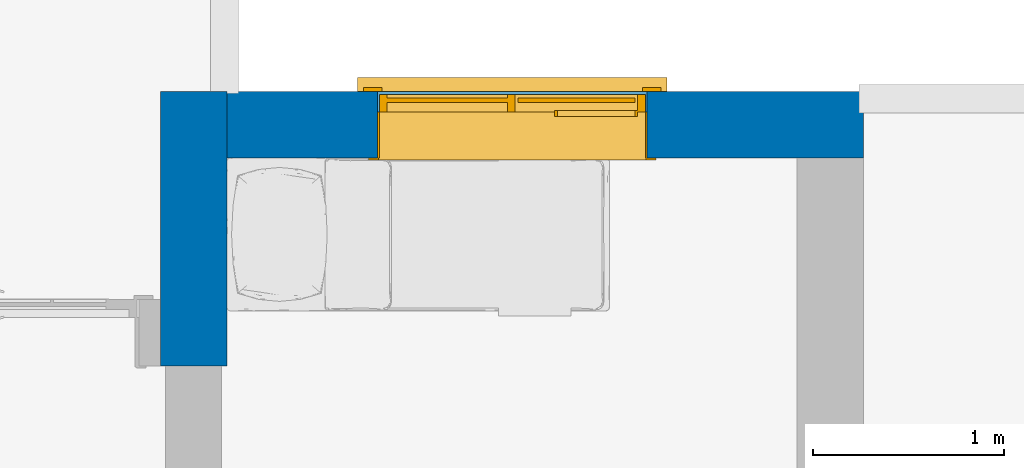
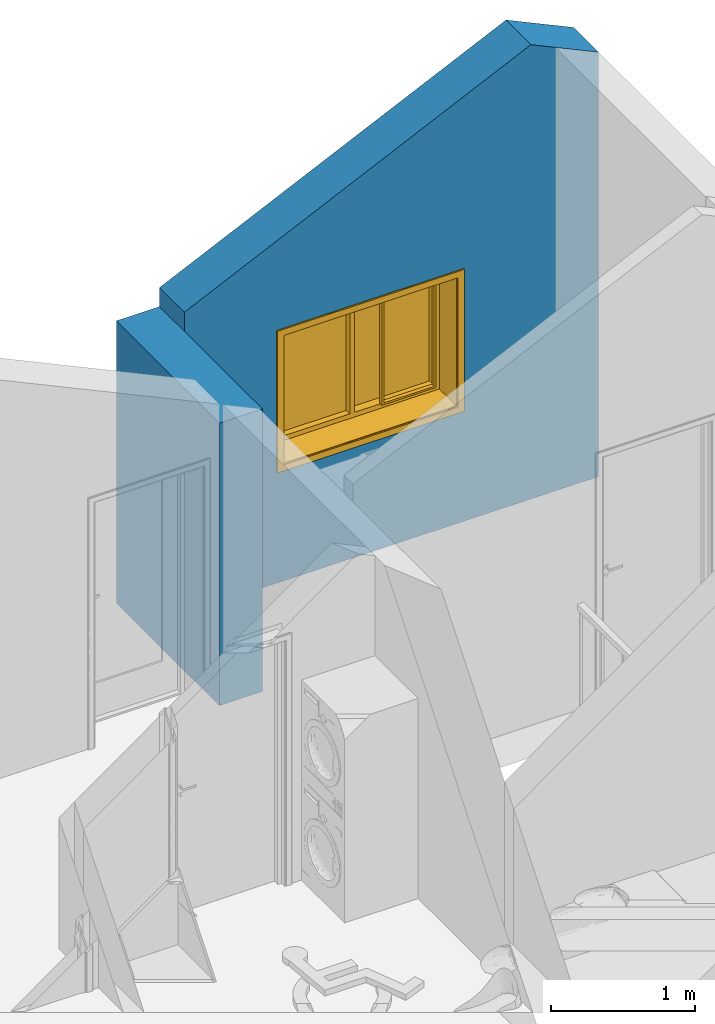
# One storey, part 30 of 44: 2 walls, 1 window, 1 opening.
"""IFC2X3 building model written with IfcOpenShell, lengths in millimetres."""

from ifc_helpers import new_model, entity, si_unit, converted_unit, direction, frame, frame_2d, origin, place, context, subcontext, project, spatial, polyline, rectangle, extrude, clip, bounded_halfspace, faceted_brep, source, transform, mapped, material, material_list, layer, layer_set, layer_usage, type_object, type_shapes, element, fill, save


model = new_model("IFC2X3")

# Units and contexts
model_context = context("Model", 3, precision=0.01, world=origin(), true_north=direction((0.0, 1.0)))
body_context = subcontext(model_context, "Body", "Model", "MODEL_VIEW")
ifc_project = project(units=[si_unit("LENGTHUNIT", "METRE", prefix="MILLI"), si_unit("AREAUNIT", "SQUARE_METRE"), si_unit("VOLUMEUNIT", "CUBIC_METRE"), converted_unit("PLANEANGLEUNIT", "DEGREE", entity("IfcPlaneAngleMeasure", 0.017453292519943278), si_unit("PLANEANGLEUNIT", "RADIAN"), dimensions=[0, 0, 0, 0, 0, 0, 0])], contexts=[model_context])

# Site, building, storey
site_placement = place(None, origin())
site = spatial("IfcSite", under=ifc_project, at=site_placement, Name="Default", CompositionType="ELEMENT")
building_placement = place(site_placement, origin())
building = spatial("IfcBuilding", under=site, at=building_placement, CompositionType="ELEMENT")
storey_placement = place(building_placement, frame((0.0, 0.0, 2681.0)))
storey = spatial("IfcBuildingStorey", under=building, at=storey_placement, Name="Et. 2", CompositionType="ELEMENT", Elevation=2681.0)

# Wall
ifc_material_1 = material(Name="Vegg - Stående Kledning_smal - HVIT")
ifc_layer_1 = layer(ifc_material_1, 19.0)
ifc_material_2 = material(Name="Vegg - Utlekting")
ifc_layer_2 = layer(ifc_material_2, 36.0)
ifc_layer_3 = layer(ifc_material_2, 23.0)
ifc_material_3 = material(Name="Vegg - Gips - GU")
ifc_layer_4 = layer(ifc_material_3, 9.0)
ifc_material_4 = material(Name="Vegg - Stender - Isolert")
ifc_layer_5 = layer(ifc_material_4, 198.0)
ifc_material_5 = material(Name="Vegg - Påforing - Isolert")
ifc_layer_6 = layer(ifc_material_5, 48.0)
ifc_material_6 = material(Name="Vegg - Gips - Hvit")
ifc_layer_7 = layer(ifc_material_6, 13.000000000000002)
ifc_layer_set = layer_set([ifc_layer_1, ifc_layer_2, ifc_layer_3, ifc_layer_4, ifc_layer_5, ifc_layer_6, ifc_layer_7], Name="Basic Wall:23-Kv(sm)TIG-19_36_23_9_198_48_13")
ifc_layer_usage_1 = layer_usage(ifc_layer_set, "AXIS2", "NEGATIVE", 173.0)
wall_type = type_object("IfcWallType", Name="Basic Wall:23-Kv(sm)TIG-19_36_23_9_198_48_13", PredefinedType="STANDARD", material=ifc_layer_set)
wall_1_placement = place(storey_placement, frame((28178.00958675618, 14649.180957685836, 0.0), z_axis=(0.0, 0.0, 1.0), x_axis=(0.0, 1.0, 0.0)))
element("IfcWallStandardCase", 1, at=wall_1_placement, inside=storey, type_object=wall_type, material=ifc_layer_usage_1, Name="Basic Wall:23-Kv(sm)TIG-19_36_23_9_198_48_13", context=body_context, shape_type="SweptSolid", body=[
    extrude(rectangle(XDim=1432.999999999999, YDim=345.9999999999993, at=frame_2d((716.4999999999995, 0.0), x_axis=(-1.0, 0.0))), origin(), (0.0, 0.0, 1.0), 2400.0),
])

# Wall, opening, window
ifc_layer_usage_2 = layer_usage(ifc_layer_set, "AXIS2", "NEGATIVE", 173.0)
wall_2_placement = place(storey_placement, frame((28351.00958675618, 15909.180957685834, 0.0)))
wall_2 = element("IfcWallStandardCase", 2, at=wall_2_placement, inside=storey, type_object=wall_type, material=ifc_layer_usage_2, Name="Basic Wall:23-Kv(sm)TIG-19_36_23_9_198_48_13", context=body_context, shape_type="Clipping", body=[
    clip(clip(extrude(rectangle(XDim=3326.9999999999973, YDim=345.9999999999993, at=frame_2d((1663.4999999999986, 7.958078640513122e-13), x_axis=(-1.0, 0.0))), origin(), (0.0, 0.0, 1.0), 3859.5429700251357), bounded_halfspace(frame((2784.0, -173.0, 3859.5429700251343), z_axis=(0.42261826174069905, 0.0, 0.9063077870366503), x_axis=(0.0, 1.0, 0.0)), False, frame((2784.0, -173.0, 3859.5429700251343)), polyline([(0.0, 0.0), (197.0, 0.0), (543.0, 0.0), (543.0, 346.0), (0.0, 346.0), (0.0, 0.0)]))), bounded_halfspace(frame((0.0, 173.0, 2561.342449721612), z_axis=(-0.42261826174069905, 0.0, 0.9063077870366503), x_axis=(0.0, -1.0, 0.0)), False, frame((0.0, 173.0, 2561.342449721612)), polyline([(0.0, 0.0), (0.0, -346.0), (2784.0, -346.0), (2784.0, 0.0), (0.0, 0.0)]))),
])
opening_placement = place(wall_2_placement, frame((787.0, -173.0, 990.0)))
opening = element("IfcOpeningElement", 3, at=opening_placement, cuts=wall_2, Name="2 ruter vert-post åpning-fast m omramming:14x11M:1", ObjectType="Opening", context=body_context, shape_type="SweptSolid", body=[
    extrude(rectangle(XDim=1410.0000000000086, YDim=1109.9999999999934, at=frame_2d((554.9999999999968, 705.0000000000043), x_axis=(0.0, -1.0))), frame((0.0, 0.0, 0.0), z_axis=(0.0, 1.0, 0.0), x_axis=(0.0, 0.0, 1.0)), (0.0, 0.0, 1.0), 346.0),
])
ifc_material_7 = material(Name="Omramming")
ifc_material_8 = material(Name="Glass - Klart")
ifc_material_9 = material(Name="Karm")
ifc_material_list = material_list([ifc_material_7, ifc_material_8, ifc_material_9])
window_style = type_object("IfcWindowStyle", Name="2 ruter vert-post åpning-fast m omramming:14x11M", ConstructionType="NOTDEFINED", OperationType="NOTDEFINED", ParameterTakesPrecedence=False, Sizeable=False, material=ifc_material_list)
shared_shape = source(origin(), body_context, "Body", "Brep", [
    faceted_brep([(-73.0, 368.0, 1199.153701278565), (25.0, 368.0, 1199.153701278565), (25.0, 368.0, 4.105117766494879), (-73.0, 368.0, 4.105117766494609), (1385.0, 346.0, -110.0), (1483.0, 346.0, -110.0), (1483.0, 346.0, -12.776075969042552), (1513.0, 346.0, -12.776075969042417), (1513.0, 346.0, 10.0), (1483.0, 346.0, 10.0), (1483.0, 346.0, 1199.153701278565), (1385.0, 346.0, 1199.153701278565), (1385.0, 346.0, 10.0), (25.0, 346.0, 10.0), (25.0, 346.0, 1199.153701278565), (-73.0, 346.0, 1199.153701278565), (-73.0, 346.0, 10.0), (-103.0, 346.0, 10.0), (-103.0, 346.0, -12.776075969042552), (-73.0, 346.0, -12.776075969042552), (-73.0, 346.0, -110.0), (25.0, 346.0, -110.0), (25.0, 346.0, -12.776075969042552), (1385.0, 346.0, -12.776075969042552), (1483.0, 368.0, 1199.153701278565), (1385.0, 368.0, 1199.153701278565), (1483.0, 368.0, 4.105117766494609), (1385.0, 368.0, -110.0), (1483.0, 368.0, -110.0), (1385.0, 368.0, 4.105117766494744), (-73.0, 368.0, -110.0), (25.0, 368.0, -110.0), (-103.0, 413.6148078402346, -30.89340912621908), (-103.0, 419.3088268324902, -9.643040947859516), (1513.0, 413.6148078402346, -30.89340912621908), (1513.0, 419.3088268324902, -9.643040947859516), (1483.0, 368.0, -18.670958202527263), (1385.0, 368.0, -18.670958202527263), (25.0, 368.0, -18.670958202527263), (-73.0, 368.0, -18.670958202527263)], [[[0, 1, 2, 3]], [[4, 5, 6, 7, 8, 9, 10, 11, 12, 13, 14, 15, 16, 17, 18, 19, 20, 21, 22, 23]], [[24, 25, 11, 10]], [[24, 10, 9, 26]], [[27, 28, 5, 4]], [[11, 25, 29, 12]], [[1, 0, 15, 14]], [[1, 14, 13, 2]], [[30, 31, 21, 20]], [[15, 0, 3, 16]], [[32, 18, 17, 33]], [[34, 35, 8, 7]], [[18, 32, 34, 7, 6, 36, 37, 23, 22, 38, 39, 19]], [[33, 17, 16, 3, 2, 13, 12, 29, 26, 9, 8, 35]], [[32, 33, 35, 34]], [[30, 20, 19, 39]], [[21, 31, 38, 22]], [[27, 4, 23, 37]], [[5, 28, 36, 6]], [[31, 30, 39, 38]], [[25, 24, 26, 29]], [[28, 27, 37, 36]]]),
    faceted_brep([(1513.0, 413.52687511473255, 1180.8011105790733), (1513.0, 418.4444369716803, 1199.153701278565), (1513.0, 346.0, 1218.5651296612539), (1513.0, 346.0, 1198.894882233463), (-103.0, 413.52687511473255, 1180.8011105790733), (-103.0, 346.0, 1198.894882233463), (-103.0, 346.0, 1218.5651296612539), (-103.0, 418.4444369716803, 1199.153701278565)], [[[0, 1, 2, 3]], [[4, 5, 6, 7]], [[1, 0, 4, 7]], [[2, 1, 7, 6]], [[3, 2, 6, 5]], [[0, 3, 5, 4]]]),
    faceted_brep([(25.0, 368.0, 1193.0), (1385.0, 368.0, 1193.0), (1385.0, 368.0, 1095.0), (25.0, 368.0, 1095.0), (25.0, 346.0, 1193.0), (25.0, 346.0, 1095.0), (1385.0, 346.0, 1095.0), (1385.0, 346.0, 1193.0)], [[[0, 1, 2, 3]], [[4, 5, 6, 7]], [[1, 0, 4, 7]], [[2, 1, 7, 6]], [[3, 2, 6, 5]], [[0, 3, 5, 4]]]),
    faceted_brep([(1385.0, 368.0, -20.0), (25.0, 368.0, -20.0), (25.0, 346.0, -20.0), (1385.0, 346.0, -20.0), (1385.0, 368.0, -92.0), (1385.0, 346.0, -92.0), (25.0, 368.0, -92.0), (25.0, 346.0, -92.0)], [[[0, 1, 2, 3]], [[4, 0, 3, 5]], [[6, 4, 5, 7]], [[1, 6, 7, 2]], [[2, 7, 5, 3]], [[1, 0, 4, 6]]]),
    faceted_brep([(1345.0, 288.49999999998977, 65.0), (1345.0, 288.4999999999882, 1045.0), (735.0, 288.4999999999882, 1045.0), (735.0, 288.49999999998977, 65.0), (1345.0, 313.49999999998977, 65.0), (735.0, 313.49999999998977, 65.0), (735.0, 313.4999999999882, 1045.0), (1345.0, 313.4999999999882, 1045.0)], [[[0, 1, 2, 3]], [[4, 5, 6, 7]], [[1, 0, 4, 7]], [[2, 1, 7, 6]], [[3, 2, 6, 5]], [[0, 3, 5, 4]]]),
    faceted_brep([(720.0, 331.0, 50.0), (720.0, 331.0, 1060.0), (720.0, 239.0, 1060.0), (720.0, 239.0, 50.0), (1400.0, 239.0, 10.0), (1400.0, 239.0, 1100.0), (10.0, 239.0, 1100.0), (10.0, 239.0, 10.0), (680.0, 239.0, 1060.0), (680.0, 239.0, 50.0), (50.0, 239.0, 50.0), (50.0, 239.0, 1060.0), (925.0, 239.0, 1060.0), (1360.0, 239.0, 1060.0), (1360.0, 239.0, 50.0), (925.0, 239.0, 50.0), (680.0, 331.0, 1060.0), (680.0, 331.0, 50.0), (1360.0, 331.0, 50.0), (1360.0, 331.0, 1060.0), (50.0, 331.0, 1060.0), (50.0, 331.0, 50.0), (1400.0, 331.0, 1100.0), (1400.0, 331.0, 10.0), (10.0, 331.0, 10.0), (10.0, 331.0, 1100.0), (1360.0, 248.0, 50.0), (1360.0, 248.0, 1060.0), (925.0, 248.0, 1060.0), (940.0, 216.0, 65.0), (940.0, 248.0, 65.0), (940.0, 248.0, 1045.0), (940.0, 216.0, 1045.0), (1345.0, 248.0, 1045.0), (1345.0, 216.0, 1045.0), (1345.0, 248.0, 65.0), (1345.0, 216.0, 65.0), (925.0, 248.0, 50.0), (925.0, 216.0, 50.0), (925.0, 216.0, 1060.0), (1360.0, 216.0, 1060.0), (1360.0, 216.0, 50.0)], [[[0, 1, 2, 3]], [[4, 5, 6, 7], [8, 9, 10, 11], [3, 2, 12, 13, 14, 15]], [[9, 8, 16, 17]], [[1, 0, 18, 19], [17, 16, 20, 21], [22, 23, 24, 25]], [[4, 23, 22, 5]], [[19, 18, 26, 27]], [[5, 22, 25, 6]], [[1, 19, 27, 28, 12, 2]], [[6, 25, 24, 7]], [[20, 11, 10, 21]], [[23, 4, 7, 24]], [[21, 10, 9, 17]], [[29, 30, 31, 32]], [[32, 31, 33, 34]], [[34, 33, 35, 36]], [[30, 29, 36, 35]], [[31, 30, 35, 33], [37, 28, 27, 26]], [[38, 39, 12, 28, 37, 15]], [[39, 40, 13, 12]], [[40, 41, 14, 13]], [[29, 32, 34, 36], [39, 38, 41, 40]], [[41, 38, 15, 14]], [[18, 0, 3, 15, 37, 26]], [[11, 20, 16, 8]]], outer=[[True], [True, False, False], [True], [False, False, True], [True], [True], [True], [True], [True], [True], [True], [True], [True], [True], [True], [True], [False, True], [True], [True], [True], [False, True], [True], [True], [True]]),
    faceted_brep([(680.0, 288.49999999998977, 50.0), (680.0, 288.4999999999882, 1060.0), (50.0, 288.4999999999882, 1060.0), (50.0, 288.49999999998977, 50.0), (680.0, 313.49999999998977, 50.0), (50.0, 313.49999999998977, 50.0), (50.0, 313.4999999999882, 1060.0), (680.0, 313.4999999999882, 1060.0)], [[[0, 1, 2, 3]], [[4, 5, 6, 7]], [[1, 0, 4, 7]], [[2, 1, 7, 6]], [[3, 2, 6, 5]], [[0, 3, 5, 4]]]),
    faceted_brep([(1410.0, 239.0, 1110.0), (1410.0, 239.0, 0.0), (0.0, 239.0, 0.0), (0.0, 239.0, 1110.0), (10.0, 239.0, 10.0), (1400.0, 239.0, 10.0), (1400.0, 239.0, 1100.0), (10.0, 239.0, 1100.0), (1410.0, 0.0, 1110.0), (0.0, 0.0, 1110.0), (0.0, 0.0, 0.0), (1410.0, 0.0, 0.0), (10.0, 0.0, 10.0), (10.0, 0.0, 1100.0), (1400.0, 0.0, 1100.0), (1400.0, 0.0, 10.0)], [[[0, 1, 2, 3], [4, 5, 6, 7]], [[8, 9, 10, 11], [12, 13, 14, 15]], [[1, 0, 8, 11]], [[2, 1, 11, 10]], [[3, 2, 10, 9]], [[0, 3, 9, 8]], [[5, 4, 12, 15]], [[6, 5, 15, 14]], [[7, 6, 14, 13]], [[4, 7, 13, 12]]]),
    faceted_brep([(1405.0, -12.0, 1105.0), (1405.0, 0.0, 1105.0), (1405.0, 0.0, 5.0), (1405.0, -12.0, 5.0), (1457.0, 0.0, 1157.0), (1457.0, -12.0, 1157.0), (1457.0, -12.0, -47.0), (1457.0, 0.0, -47.0), (5.0, 0.0, 5.0), (5.0, -12.0, 5.0), (-47.0, -12.0, -47.0), (-47.0, 0.0, -47.0), (5.0, 0.0, 1105.0), (5.0, -12.0, 1105.0), (-47.0, -12.0, 1157.0), (-47.0, 0.0, 1157.0)], [[[0, 1, 2, 3]], [[4, 5, 6, 7]], [[3, 2, 8, 9]], [[7, 6, 10, 11]], [[9, 8, 12, 13]], [[11, 10, 14, 15]], [[7, 11, 15, 4], [1, 12, 8, 2]], [[13, 12, 1, 0]], [[3, 9, 13, 0], [5, 14, 10, 6]], [[15, 14, 5, 4]]], outer=[[True], [True], [True], [True], [True], [True], [True, False], [True], [False, True], [True]]),
])
type_shapes(window_style, [shared_shape])
window_placement = place(opening_placement, origin())
window = element("IfcWindow", 4, at=window_placement, inside=storey, type_object=window_style, material=ifc_material_list, Name="2 ruter vert-post åpning-fast m omramming:14x11M", OverallHeight=1109.9999999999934, OverallWidth=1410.0000000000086, context=body_context, shape_type="MappedRepresentation", body=[
    mapped(shared_shape, transform((0.0, 0.0, 0.0), scale=1.0)),
])
fill(opening, window)

save(model, "model.ifc")
